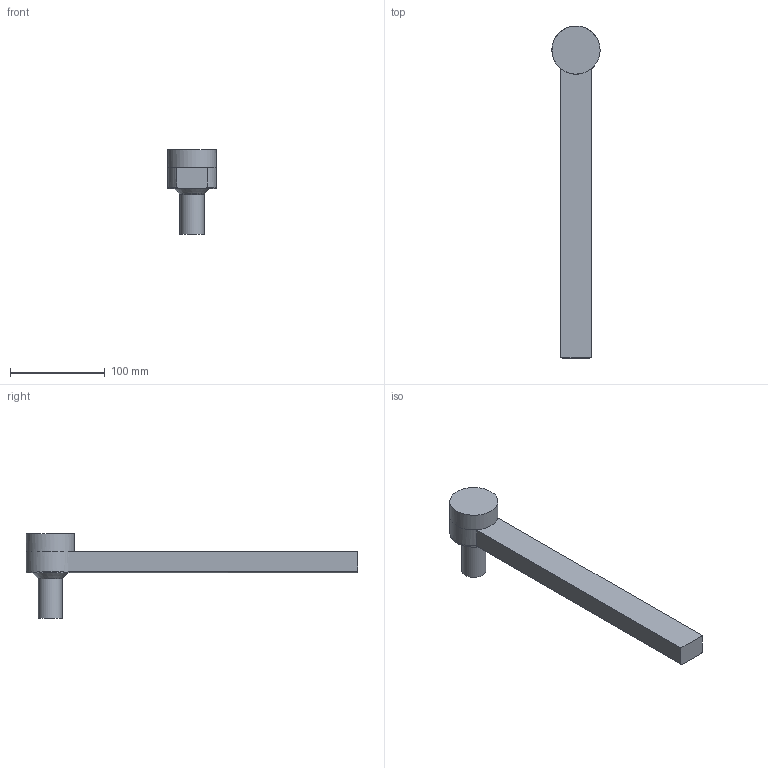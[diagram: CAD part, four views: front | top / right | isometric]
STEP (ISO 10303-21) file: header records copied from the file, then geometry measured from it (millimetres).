
FILE_DESCRIPTION(/* description */ (''),/* implementation_level */ '2;1');
FILE_NAME(/* name */ 'B0273TRUPas.stp',/* time_stamp */ '2019-10-02T10:34:10-04:00',/* author */ (''),/* organization */ (''),/* preprocessor_version */ 'ST-DEVELOPER v16',/* originating_system */ 'SIEMENS PLM Software NX 11.0',/* authorisation */ '');
FILE_SCHEMA (('AUTOMOTIVE_DESIGN { 1 0 10303 214 3 1 1 1 }'));
Length unit declared in the file: inch
Products named in the file (3): B0273TRUPd; B02XX_SubSolid; B0273TRUPas
Assembly tree (2 placements, depth 2):
  B0273TRUPas
    B02XX_SubSolid
    B0273TRUPd
Bounding box: 50.91 x 350.87 x 89.69 mm (x, y, z)
Volume: 385392.6 mm3; surface area: 59906.5 mm2
Topology: 2 solids, 3 shells, 32 faces, 68 edges, 43 vertices
Faces by surface type: plane 13, cylinder 9, cone 5, torus 3, sphere 1, revolution 1
Full cylindrical faces by diameter (mm): 8.731 x2, 25.4 x2, 50.927 x1
Entity records: 834 total; most frequent: CARTESIAN_POINT 161, DIRECTION 134, ORIENTED_EDGE 92, AXIS2_PLACEMENT_3D 58, EDGE_LOOP 50, EDGE_CURVE 46, FACE_BOUND 41, VERTEX_POINT 38
